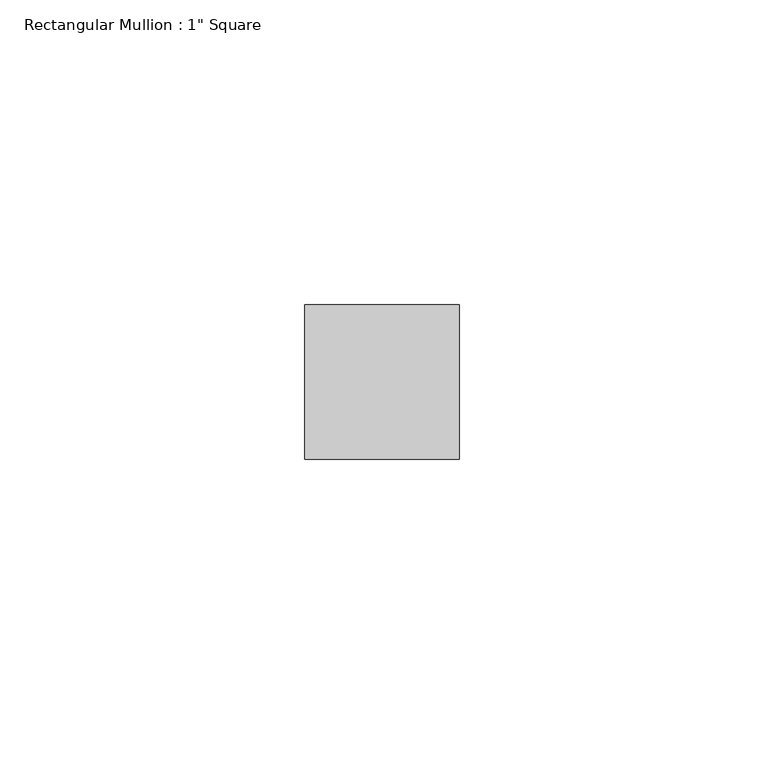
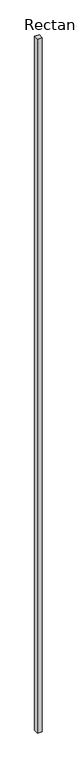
"""IFC4 building model written with IfcOpenShell, lengths in millimetres: member geometry."""

from ifc_helpers import new_model, si_unit, frame, origin, place, context, project, spatial, polyline, outline, extrude, source, transform, mapped, element, save


def member_e2275742(model_context):
    return source(origin(), model_context, "Body", "SweptSolid", [
        extrude(outline(polyline([(0.0, 12.7), (0.0, -12.7), (-25.4, -12.7), (-25.4, 12.7), (0.0, 12.7)])), frame((0.0, 0.0, -4000.0), z_axis=(0.0, 0.0, 1.0), x_axis=(1.0, 0.0, 0.0)), (0.0, 0.0, 1.0), 4000.0),
    ])


if __name__ == "__main__":
    model = new_model("IFC4")
    model_context = context("Model", 3, world=origin())
    ifc_project = project(units=[si_unit("LENGTHUNIT", "METRE", prefix="MILLI")], contexts=[model_context])
    site = spatial("IfcSite", under=ifc_project)
    building = spatial("IfcBuilding", under=site)
    placement = place(None, origin())
    member_shape = member_e2275742(model_context)
    element("IfcMember", 1, ObjectType="Rectangular Mullion : 1\" Square", at=placement, inside=building, context=model_context, shape_type="MappedRepresentation", body=[
        mapped(member_shape, transform((0.0, 0.0, 0.0), x_axis=(1.0, 0.0, 0.0), y_axis=(0.0, 1.0, 0.0), z_axis=(0.0, 0.0, 1.0))),
    ])
    save(model, "model.ifc")
